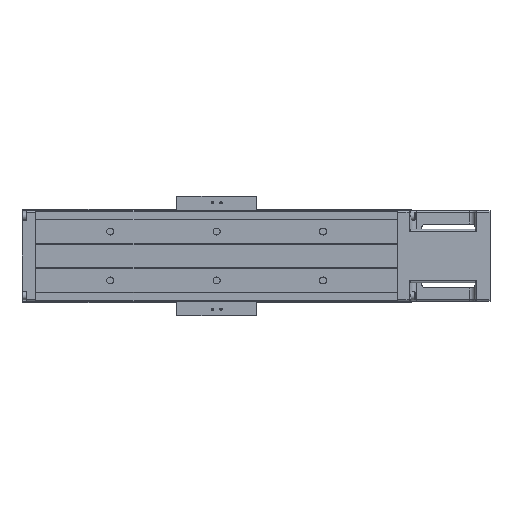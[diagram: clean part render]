
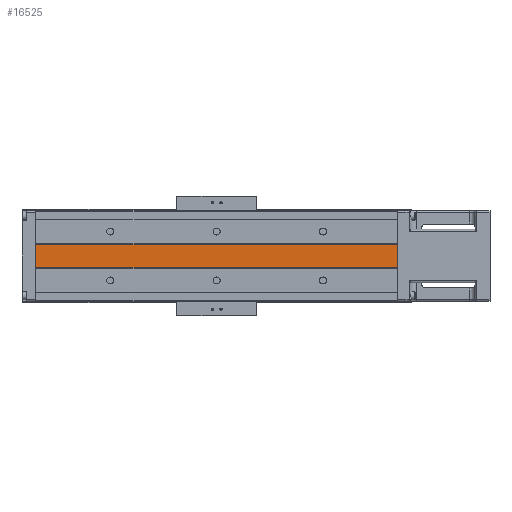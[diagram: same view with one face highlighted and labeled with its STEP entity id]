
A CAD part, front view. The second image highlights one B-rep face of the part: STEP entity #16525.
In plain terms, the highlighted planar face has unit normal (0, -1, 0).
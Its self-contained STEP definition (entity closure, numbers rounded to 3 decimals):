
#215 = EDGE_CURVE ( 'NONE', #14910, #9249, #11718, .T. ) ;
#1452 = DIRECTION ( 'NONE',  ( 1., 0., 0. ) ) ;
#1550 = LINE ( 'NONE', #2226, #19724 ) ;
#1884 = VECTOR ( 'NONE', #1452, 1000. ) ;
#2226 = CARTESIAN_POINT ( 'NONE',  ( -220., -31.5, -5.5 ) ) ;
#3504 = LINE ( 'NONE', #7902, #17169 ) ;
#3877 = DIRECTION ( 'NONE',  ( -1., 0., 0. ) ) ;
#4704 = CARTESIAN_POINT ( 'NONE',  ( -220., -31.5, -11. ) ) ;
#4954 = VERTEX_POINT ( 'NONE', #16998 ) ;
#5968 = DIRECTION ( 'NONE',  ( 0., 0., -1. ) ) ;
#7032 = ORIENTED_EDGE ( 'NONE', *, *, #15314, .F. ) ;
#7671 = CARTESIAN_POINT ( 'NONE',  ( 120., -31.5, -11. ) ) ;
#7739 = DIRECTION ( 'NONE',  ( 0., 0., -1. ) ) ;
#7902 = CARTESIAN_POINT ( 'NONE',  ( 120., -31.5, 11. ) ) ;
#9111 = EDGE_CURVE ( 'NONE', #4954, #14910, #1550, .T. ) ;
#9249 = VERTEX_POINT ( 'NONE', #7671 ) ;
#11718 = LINE ( 'NONE', #12935, #1884 ) ;
#12935 = CARTESIAN_POINT ( 'NONE',  ( -620., -31.5, -11. ) ) ;
#13391 = EDGE_CURVE ( 'NONE', #4954, #19048, #14615, .T. ) ;
#14615 = LINE ( 'NONE', #21142, #24144 ) ;
#14754 = FACE_OUTER_BOUND ( 'NONE', #20681, .T. ) ;
#14910 = VERTEX_POINT ( 'NONE', #4704 ) ;
#15314 = EDGE_CURVE ( 'NONE', #19048, #9249, #3504, .T. ) ;
#15491 = DIRECTION ( 'NONE',  ( 1., 0., 0. ) ) ;
#16525 = ADVANCED_FACE ( 'NONE', ( #14754 ), #18988, .T. ) ;
#16998 = CARTESIAN_POINT ( 'NONE',  ( -220., -31.5, 11. ) ) ;
#17169 = VECTOR ( 'NONE', #7739, 1000. ) ;
#17275 = ORIENTED_EDGE ( 'NONE', *, *, #215, .T. ) ;
#18988 = PLANE ( 'NONE',  #24448 ) ;
#19048 = VERTEX_POINT ( 'NONE', #22244 ) ;
#19488 = ORIENTED_EDGE ( 'NONE', *, *, #13391, .F. ) ;
#19724 = VECTOR ( 'NONE', #5968, 1000. ) ;
#20681 = EDGE_LOOP ( 'NONE', ( #23244, #17275, #7032, #19488 ) ) ;
#20999 = CARTESIAN_POINT ( 'NONE',  ( 120., -31.5, -11. ) ) ;
#21142 = CARTESIAN_POINT ( 'NONE',  ( -620., -31.5, 11. ) ) ;
#22244 = CARTESIAN_POINT ( 'NONE',  ( 120., -31.5, 11. ) ) ;
#22816 = DIRECTION ( 'NONE',  ( 0., -1., 0. ) ) ;
#23244 = ORIENTED_EDGE ( 'NONE', *, *, #9111, .T. ) ;
#24144 = VECTOR ( 'NONE', #15491, 1000. ) ;
#24448 = AXIS2_PLACEMENT_3D ( 'NONE', #20999, #22816, #3877 ) ;
